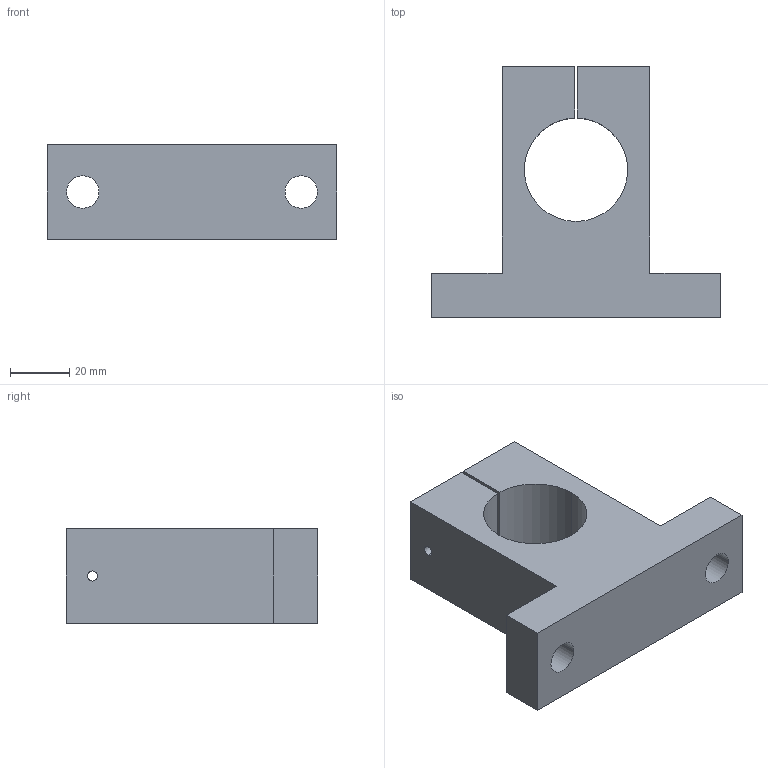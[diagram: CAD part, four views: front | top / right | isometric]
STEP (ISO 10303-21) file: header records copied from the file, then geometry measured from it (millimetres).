
FILE_DESCRIPTION((''),'2;1');
FILE_NAME('C:\Documents and Settings\ｿﾀﾀ蠑ｷ1\ｹﾙﾅﾁ ﾈｭｸ饅\ｺﾎﾇｰﾆﾄﾀﾏ\ﾁｦﾇｰ\SK\SK35.stp','2005-06-15T17:42:03',('ｿﾀﾀ蠑ｷ1'),(''),'Autodesk Inventor 9','Autodesk Inventor 9','');
FILE_SCHEMA(('AUTOMOTIVE_DESIGN { 1 0 10303 214 1 1 1 1 }'));
Length unit declared in the file: millimetre
Products named in the file (1): SK__
Bounding box: 98 x 85 x 32 mm (x, y, z)
Volume: 122654.3 mm3; surface area: 25803.8 mm2
Topology: 1 solids, 1 shells, 27 faces, 72 edges, 48 vertices
Faces by surface type: plane 13, bspline 11, cylinder 3
Entity records: 1021 total; most frequent: CARTESIAN_POINT 321, ORIENTED_EDGE 144, DIRECTION 132, EDGE_CURVE 72, VERTEX_POINT 48, VECTOR 46, LINE 46, AXIS2_PLACEMENT_3D 43
